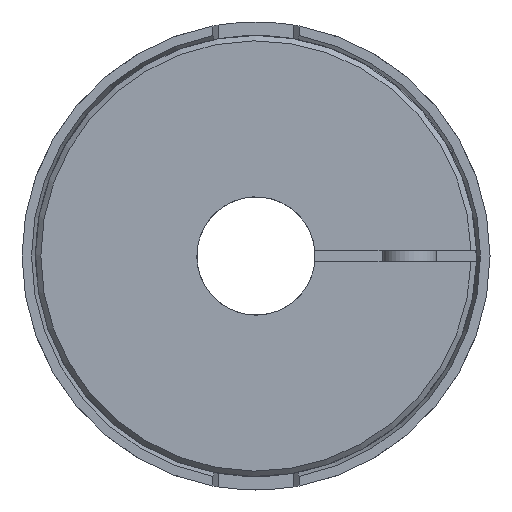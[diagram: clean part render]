
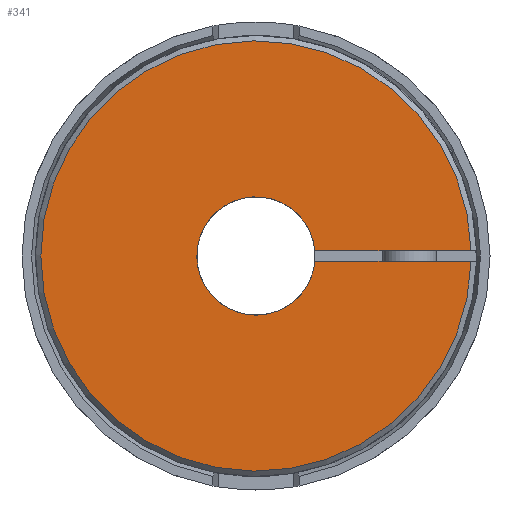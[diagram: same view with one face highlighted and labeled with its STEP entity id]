
A CAD part, left-side view. The second image highlights one B-rep face of the part: STEP entity #341.
In plain terms, the highlighted planar face has unit normal (-1, 0, 0).
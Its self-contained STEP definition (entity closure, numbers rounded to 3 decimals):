
#341 = ADVANCED_FACE( '', ( #775 ), #776, .T. );
#775 = FACE_OUTER_BOUND( '', #1278, .T. );
#776 = PLANE( '', #1279 );
#1278 = EDGE_LOOP( '', ( #2180, #2181, #2182, #2183 ) );
#1279 = AXIS2_PLACEMENT_3D( '', #2184, #2185, #2186 );
#2180 = ORIENTED_EDGE( '', *, *, #2917, .F. );
#2181 = ORIENTED_EDGE( '', *, *, #2902, .T. );
#2182 = ORIENTED_EDGE( '', *, *, #2793, .F. );
#2183 = ORIENTED_EDGE( '', *, *, #2918, .T. );
#2184 = CARTESIAN_POINT( '', ( -64.996, 0., 8. ) );
#2185 = DIRECTION( '', ( -1., 0., 0. ) );
#2186 = DIRECTION( '', ( 0., 0., 1. ) );
#2793 = EDGE_CURVE( '', #3351, #3348, #3353, .T. );
#2902 = EDGE_CURVE( '', #3502, #3348, #3503, .F. );
#2917 = EDGE_CURVE( '', #3502, #3522, #3523, .T. );
#2918 = EDGE_CURVE( '', #3351, #3522, #3524, .T. );
#3348 = VERTEX_POINT( '', #4471 );
#3351 = VERTEX_POINT( '', #4476 );
#3353 = LINE( '', #4479, #4480 );
#3502 = VERTEX_POINT( '', #4661 );
#3503 = CIRCLE( '', #4662, 11. );
#3522 = VERTEX_POINT( '', #4684 );
#3523 = LINE( '', #4685, #4686 );
#3524 = CIRCLE( '', #4687, 40. );
#4471 = CARTESIAN_POINT( '', ( -64.996, -10.954, 1. ) );
#4476 = CARTESIAN_POINT( '', ( -64.996, -39.987, 1. ) );
#4479 = CARTESIAN_POINT( '', ( -64.996, -60., 1. ) );
#4480 = VECTOR( '', #5109, 1000. );
#4661 = CARTESIAN_POINT( '', ( -64.996, -10.954, -1. ) );
#4662 = AXIS2_PLACEMENT_3D( '', #5263, #5264, #5265 );
#4684 = CARTESIAN_POINT( '', ( -64.996, -39.987, -1. ) );
#4685 = CARTESIAN_POINT( '', ( -64.996, -5., -1. ) );
#4686 = VECTOR( '', #5287, 1000. );
#4687 = AXIS2_PLACEMENT_3D( '', #5288, #5289, #5290 );
#5109 = DIRECTION( '', ( 0., 1., 0. ) );
#5263 = CARTESIAN_POINT( '', ( -64.996, 0., 0. ) );
#5264 = DIRECTION( '', ( -1., 0., 0. ) );
#5265 = DIRECTION( '', ( 0., 0., 1. ) );
#5287 = DIRECTION( '', ( 0., -1., 0. ) );
#5288 = CARTESIAN_POINT( '', ( -64.996, 0., 0. ) );
#5289 = DIRECTION( '', ( -1., 0., 0. ) );
#5290 = DIRECTION( '', ( 0., 0., 1. ) );
